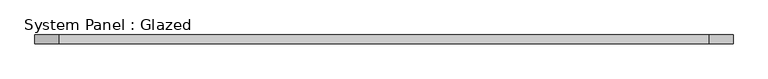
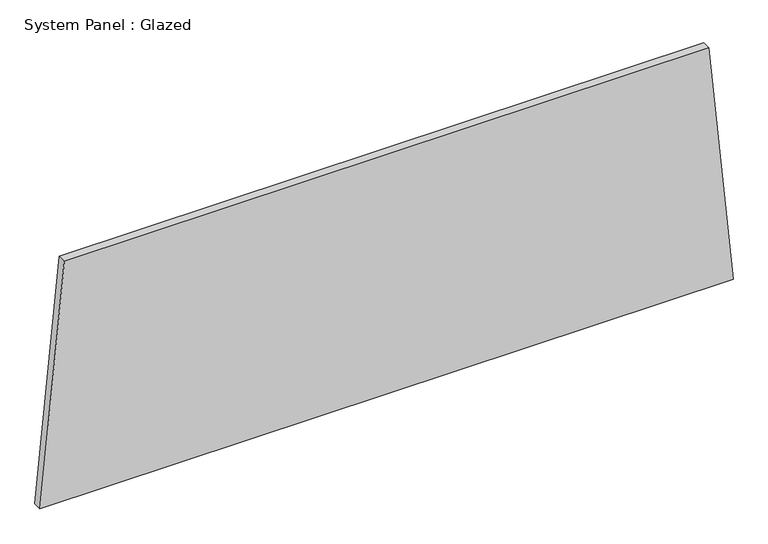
"""IFC4 building model written with IfcOpenShell, lengths in millimetres: plate geometry, System Panel : Glazed."""

from ifc_helpers import new_model, si_unit, frame, origin, place, context, project, spatial, polyline, outline, extrude, source, transform, mapped, element, save


def system_panel_glazed_afa622ac(model_context):
    return source(origin(), model_context, "Body", "SweptSolid", [
        extrude(outline(polyline([(0.0, -1004.2014322), (0.0, 1004.2014322), (733.1174891, 933.8699237), (733.1174891, -933.8699237), (0.0, -1004.2014322)])), frame((0.0, 19.05, 0.0), z_axis=(0.0, 1.0, 0.0), x_axis=(0.0, 0.0, 1.0)), (0.0, 0.0, 1.0), 25.4),
    ])


if __name__ == "__main__":
    model = new_model("IFC4")
    model_context = context("Model", 3, world=origin())
    ifc_project = project(units=[si_unit("LENGTHUNIT", "METRE", prefix="MILLI")], contexts=[model_context])
    site = spatial("IfcSite", under=ifc_project)
    building = spatial("IfcBuilding", under=site)
    placement = place(None, origin())
    system_panel_glazed_shape = system_panel_glazed_afa622ac(model_context)
    element("IfcPlate", 1, ObjectType="System Panel : Glazed", at=placement, inside=building, context=model_context, shape_type="MappedRepresentation", body=[
        mapped(system_panel_glazed_shape, transform((0.0, 0.0, 0.0), x_axis=(1.0, 0.0, 0.0), y_axis=(0.0, 1.0, 0.0), z_axis=(0.0, 0.0, 1.0))),
    ])
    save(model, "model.ifc")
